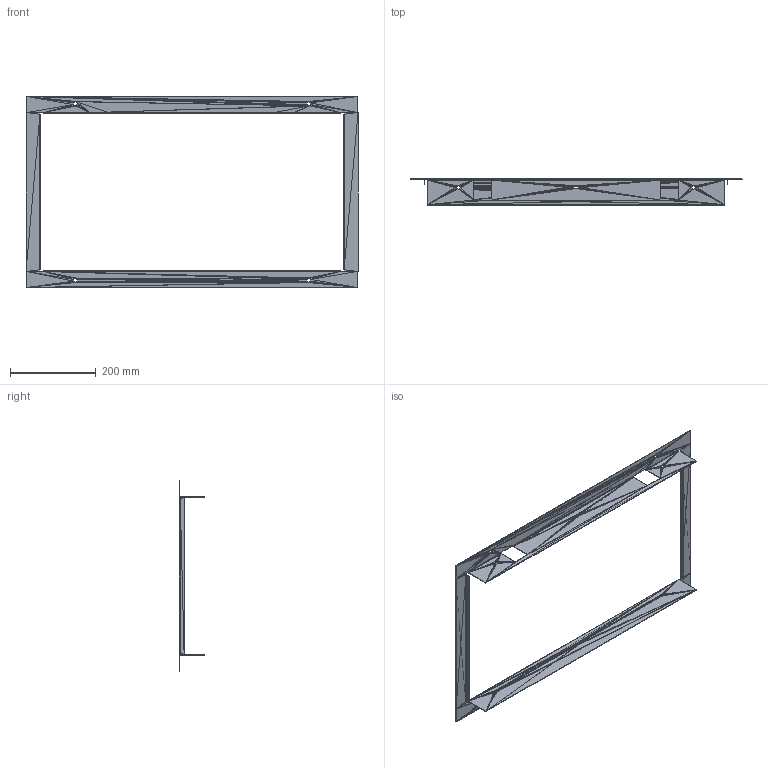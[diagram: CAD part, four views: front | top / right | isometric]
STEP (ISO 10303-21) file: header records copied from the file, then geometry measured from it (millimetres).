
FILE_DESCRIPTION((''),'2;1');
FILE_NAME('004319', '2025-07-23T07:27:55', (''), (''), 'ImageToStl.com STEP Converter','', '');
FILE_SCHEMA(('AUTOMOTIVE_DESIGN_CC2'));
Length unit declared in the file: metre
Products named in the file (1): product0
Bounding box: 775 x 60 x 446 mm (x, y, z)
Surface area: 348011.6 mm2 (no closed solid volume)
Topology: 0 solids, 920 shells, 920 faces, 2760 edges, 444 vertices
Faces by surface type: plane 920
Entity records: 21156 total; most frequent: DIRECTION 4602, ORIENTED_EDGE 2760, EDGE_CURVE 2760, LINE 2760, VECTOR 2760, AXIS2_PLACEMENT_3D 921, FACE_SURFACE 920, PLANE 920
